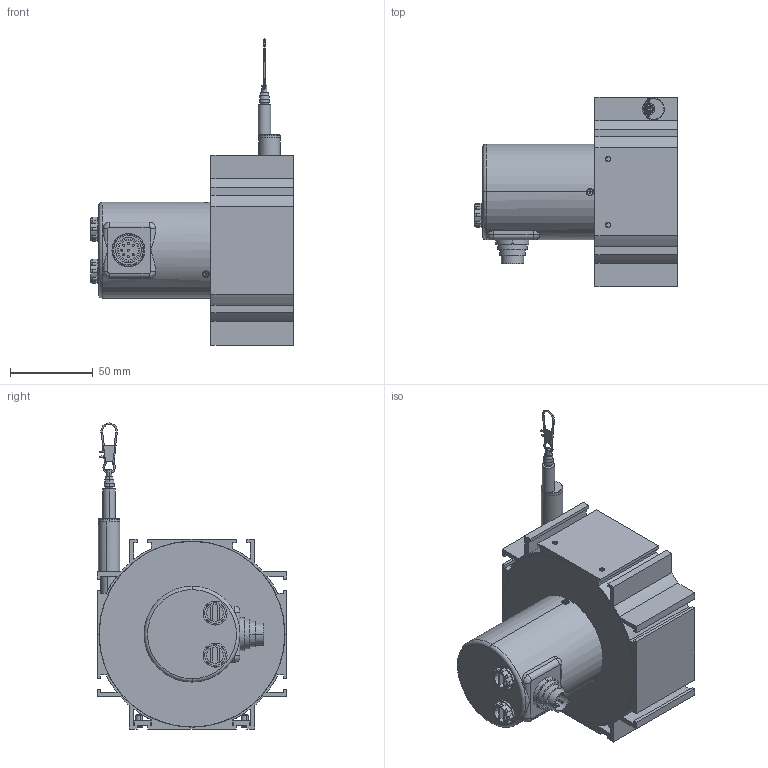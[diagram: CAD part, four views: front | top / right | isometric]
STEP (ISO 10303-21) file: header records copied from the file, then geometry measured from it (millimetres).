
FILE_DESCRIPTION((''),'2;1');
FILE_NAME('','2007-03-21T',(''),(''),'PRO/ENGINEER BY PARAMETRIC TECHNOLOGY CORPORATION, 2003250','PRO/ENGINEER BY PARAMETRIC TECHNOLOGY CORPORATION, 2003250','');
FILE_SCHEMA(('CONFIG_CONTROL_DESIGN'));
Length unit declared in the file: millimetre
Bounding box: 123 x 115 x 185.5 mm (x, y, z)
Volume: 265832.1 mm3; surface area: 131285 mm2
Topology: 1 solids, 7 shells, 731 faces, 1940 edges, 1261 vertices
Faces by surface type: plane 303, cylinder 288, cone 74, torus 34, bspline 30, sphere 2
Entity records: 24561 total; most frequent: CARTESIAN_POINT 6168, DIRECTION 3938, ORIENTED_EDGE 3800, EDGE_CURVE 1900, AXIS2_PLACEMENT_3D 1510, VERTEX_POINT 1261, VECTOR 918, LINE 918
